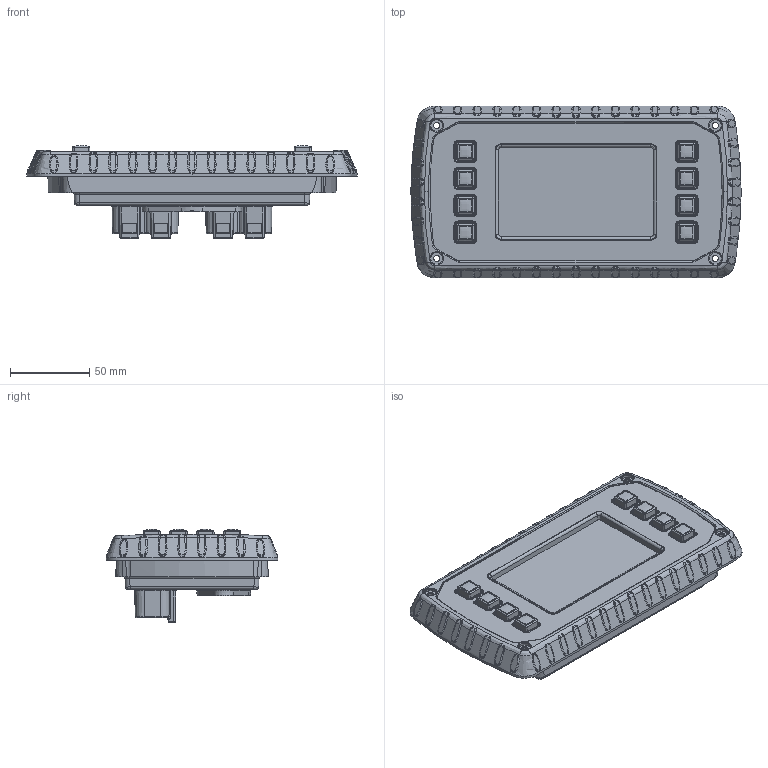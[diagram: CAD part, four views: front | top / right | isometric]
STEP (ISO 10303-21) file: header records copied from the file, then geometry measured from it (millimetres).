
FILE_DESCRIPTION (( 'STEP AP214' ), '1' );
FILE_NAME ('610-00039.STEP', '2019-01-17T16:37:55', ( '' ), ( '' ), 'SwSTEP 2.0', 'SolidWorks 2017', '' );
FILE_SCHEMA (( 'AUTOMOTIVE_DESIGN' ));
Length unit declared in the file: inch
Products named in the file (1): 610-00039
Bounding box: 208.26 x 108.25 x 58.72 mm (x, y, z)
Surface area: 74091 mm2 (no closed solid volume)
Topology: 0 solids, 1 shells, 2169 faces, 5490 edges, 3370 vertices
Faces by surface type: bspline 1067, plane 437, cone 337, cylinder 328
Entity records: 150803 total; most frequent: CARTESIAN_POINT 96800, ORIENTED_EDGE 10948, DIRECTION 6049, EDGE_CURVE 5476, VERTEX_POINT 3370, B_SPLINE_CURVE_WITH_KNOTS 2476, EDGE_LOOP 2248, FACE_OUTER_BOUND 2169
